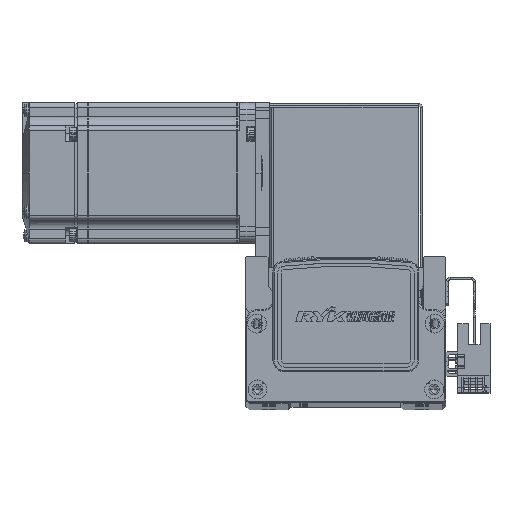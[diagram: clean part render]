
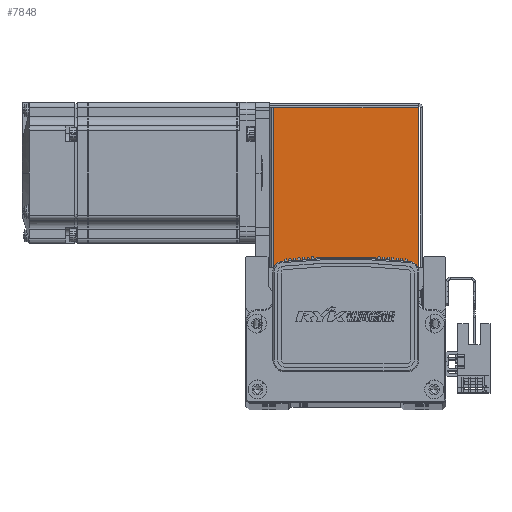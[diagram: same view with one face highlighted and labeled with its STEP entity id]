
A CAD part, top view. The second image highlights one B-rep face of the part: STEP entity #7848.
In plain terms, the highlighted planar face has unit normal (0, 0, 1).
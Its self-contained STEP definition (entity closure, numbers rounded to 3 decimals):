
#7848 = ADVANCED_FACE ( 'NONE', ( #52293 ), #39304, .F. ) ;
#8576 = CARTESIAN_POINT ( 'NONE',  ( -32.5, 0.737, 35. ) ) ;
#8603 = CARTESIAN_POINT ( 'NONE',  ( 30.763, 0.737, 35. ) ) ;
#8604 = DIRECTION ( 'NONE',  ( 0., 1., 0. ) ) ;
#8612 = DIRECTION ( 'NONE',  ( -1., 0., 0. ) ) ;
#8619 = CARTESIAN_POINT ( 'NONE',  ( -30.793, 0., 35. ) ) ;
#8622 = CARTESIAN_POINT ( 'NONE',  ( 0., 68.5, 35. ) ) ;
#8635 = DIRECTION ( 'NONE',  ( 0., 1., 0. ) ) ;
#8647 = DIRECTION ( 'NONE',  ( -1., 0., 0. ) ) ;
#28695 = EDGE_LOOP ( 'NONE', ( #76260, #76334, #76306, #76245 ) ) ;
#36754 = LINE ( 'NONE', #8576, #36762 ) ;
#36762 = VECTOR ( 'NONE', #8612, 1000. ) ;
#36771 = LINE ( 'NONE', #8603, #36778 ) ;
#36773 = VECTOR ( 'NONE', #8635, 1000. ) ;
#36778 = VECTOR ( 'NONE', #8604, 1000. ) ;
#36790 = LINE ( 'NONE', #8622, #36792 ) ;
#36792 = VECTOR ( 'NONE', #8647, 1000. ) ;
#36798 = LINE ( 'NONE', #8619, #36773 ) ;
#39284 = CARTESIAN_POINT ( 'NONE',  ( 0., 0., 35. ) ) ;
#39285 = DIRECTION ( 'NONE',  ( -1., 0., 0. ) ) ;
#39303 = DIRECTION ( 'NONE',  ( 0., 0., -1. ) ) ;
#39304 = PLANE ( 'NONE',  #49701 ) ;
#49701 = AXIS2_PLACEMENT_3D ( 'NONE', #39284, #39303, #39285 ) ;
#52293 = FACE_OUTER_BOUND ( 'NONE', #28695, .T. ) ;
#55986 = CARTESIAN_POINT ( 'NONE',  ( 30.763, 0.737, 35. ) ) ;
#56002 = CARTESIAN_POINT ( 'NONE',  ( -30.793, 0.737, 35. ) ) ;
#56033 = CARTESIAN_POINT ( 'NONE',  ( 30.763, 68.5, 35. ) ) ;
#56048 = CARTESIAN_POINT ( 'NONE',  ( -30.793, 68.5, 35. ) ) ;
#67378 = EDGE_CURVE ( 'NONE', #75944, #75959, #36754, .T. ) ;
#67396 = EDGE_CURVE ( 'NONE', #75944, #75928, #36771, .T. ) ;
#67398 = EDGE_CURVE ( 'NONE', #75959, #75989, #36798, .T. ) ;
#67407 = EDGE_CURVE ( 'NONE', #75928, #75989, #36790, .T. ) ;
#75928 = VERTEX_POINT ( 'NONE', #56033 ) ;
#75944 = VERTEX_POINT ( 'NONE', #55986 ) ;
#75959 = VERTEX_POINT ( 'NONE', #56002 ) ;
#75989 = VERTEX_POINT ( 'NONE', #56048 ) ;
#76245 = ORIENTED_EDGE ( 'NONE', *, *, #67378, .F. ) ;
#76260 = ORIENTED_EDGE ( 'NONE', *, *, #67396, .T. ) ;
#76306 = ORIENTED_EDGE ( 'NONE', *, *, #67398, .F. ) ;
#76334 = ORIENTED_EDGE ( 'NONE', *, *, #67407, .T. ) ;
